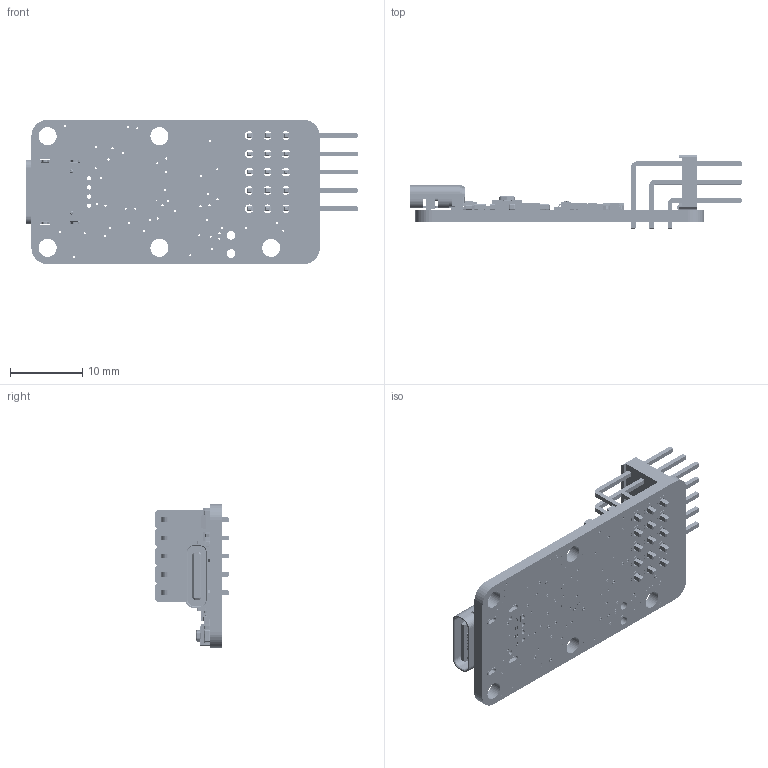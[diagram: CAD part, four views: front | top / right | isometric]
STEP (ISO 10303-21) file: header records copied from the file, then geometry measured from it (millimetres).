
FILE_DESCRIPTION (( 'STEP AP214' ), '1' );
FILE_NAME ('SRVORC1C.STEP', '2026-01-08T05:15:52', ( '' ), ( '' ), 'SwSTEP 2.0', 'SolidWorks 2008', '' );
FILE_SCHEMA (( 'AUTOMOTIVE_DESIGN' ));
Length unit declared in the file: millimetre
Products named in the file (30): P3; D3; PVSS; sens1; PCB; C18; R2; C19; R1; R4; C6; R25; R12; YLED; SW1; T8; REG1; USB1; C2; U1; R24; SRVORC1C; R22; R26; R27; T7; R20; D1; C16; T2
Assembly tree (54 placements, depth 2):
  PVSS
  SRVORC1C
    R12
    R24  x10
    R25  x7
    T7  x5
    C6  x4
    C19
    SW1
    R20
    C16
    PCB
    YLED
    USB1
    C18
    U1
    R1
    R26
    T2  x2
    R27  x2
    R2
    REG1
    C2
    T8
    R22  x2
    R4
    P3
    D1
    sens1
    D3  x2
Bounding box: 46.04 x 10.34 x 20 mm (x, y, z)
Volume: 1747.1 mm3; surface area: 4051.2 mm2
Topology: 59 solids, 59 shells, 8187 faces, 21655 edges, 14207 vertices
Faces by surface type: plane 5435, cylinder 1835, bspline 834, sphere 64, cone 12, torus 7
Entity records: 265260 total; most frequent: CARTESIAN_POINT 58776, ORIENTED_EDGE 31448, DIRECTION 29191, EDGE_CURVE 15724, LINE 11687, VECTOR 11687, VERTEX_POINT 10339, AXIS2_PLACEMENT_3D 8752
